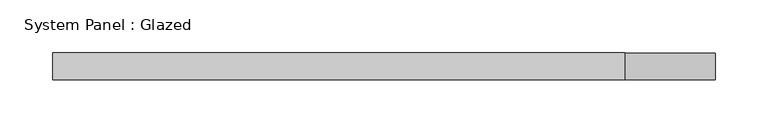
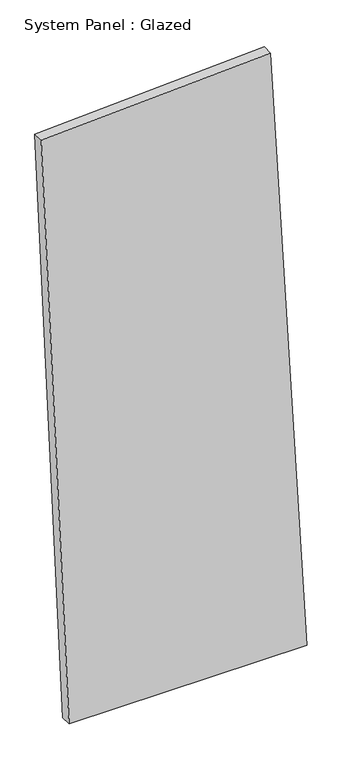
"""IFC4 building model written with IfcOpenShell, lengths in millimetres: plate geometry, System Panel : Glazed."""

from ifc_helpers import new_model, si_unit, frame, origin, place, context, project, spatial, polyline, outline, extrude, source, transform, mapped, element, save


def system_panel_glazed_a6c2476c(model_context):
    return source(origin(), model_context, "Body", "SweptSolid", [
        extrude(outline(polyline([(0.0, -247.5543331), (0.0, 313.3431286), (1504.3122702, 227.6530218), (1476.8206921, -313.3431286), (0.0, -247.5543331)])), frame((0.0, -44.45, 0.0), z_axis=(0.0, 1.0, 0.0), x_axis=(0.0, 0.0, 1.0)), (0.0, 0.0, 1.0), 25.4),
    ])


if __name__ == "__main__":
    model = new_model("IFC4")
    model_context = context("Model", 3, world=origin())
    ifc_project = project(units=[si_unit("LENGTHUNIT", "METRE", prefix="MILLI")], contexts=[model_context])
    site = spatial("IfcSite", under=ifc_project)
    building = spatial("IfcBuilding", under=site)
    placement = place(None, origin())
    system_panel_glazed_shape = system_panel_glazed_a6c2476c(model_context)
    element("IfcPlate", 1, ObjectType="System Panel : Glazed", at=placement, inside=building, context=model_context, shape_type="MappedRepresentation", body=[
        mapped(system_panel_glazed_shape, transform((0.0, 0.0, 0.0), x_axis=(1.0, 0.0, 0.0), y_axis=(0.0, 1.0, 0.0), z_axis=(0.0, 0.0, 1.0))),
    ])
    save(model, "model.ifc")
